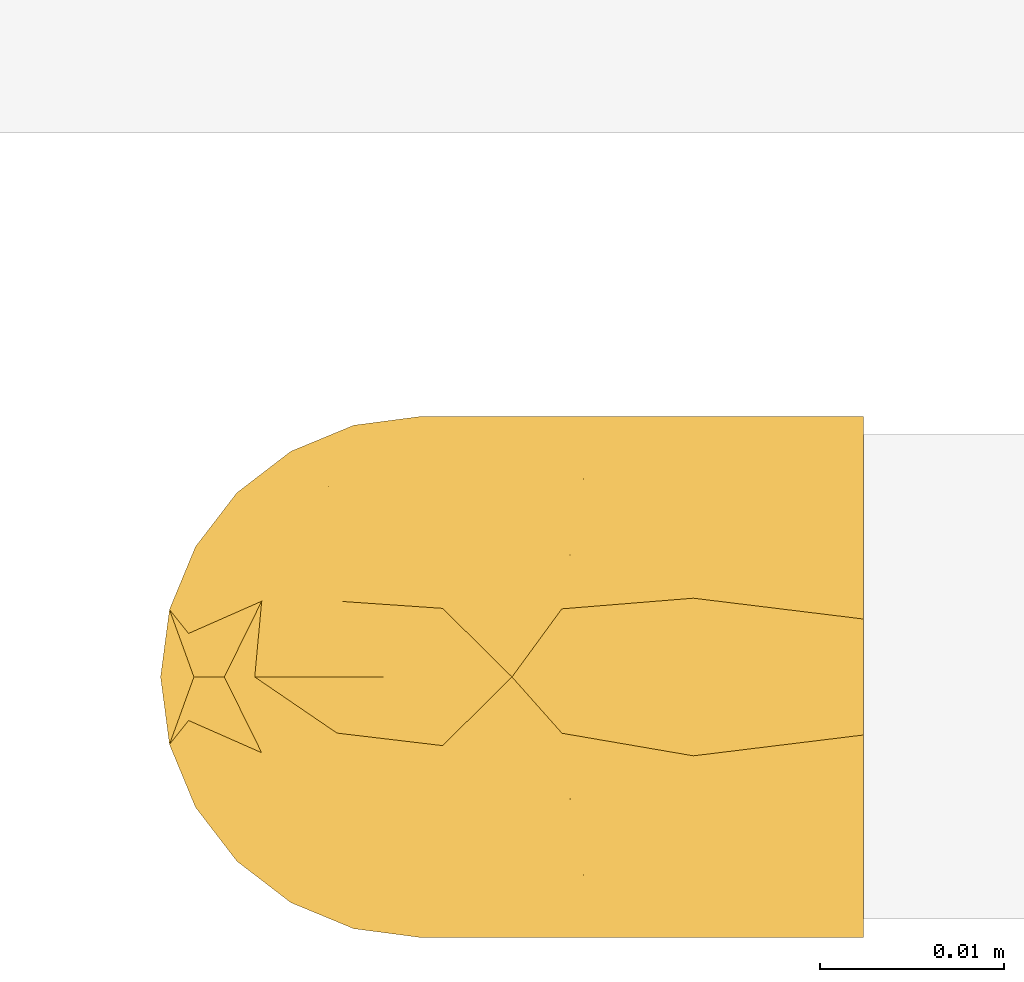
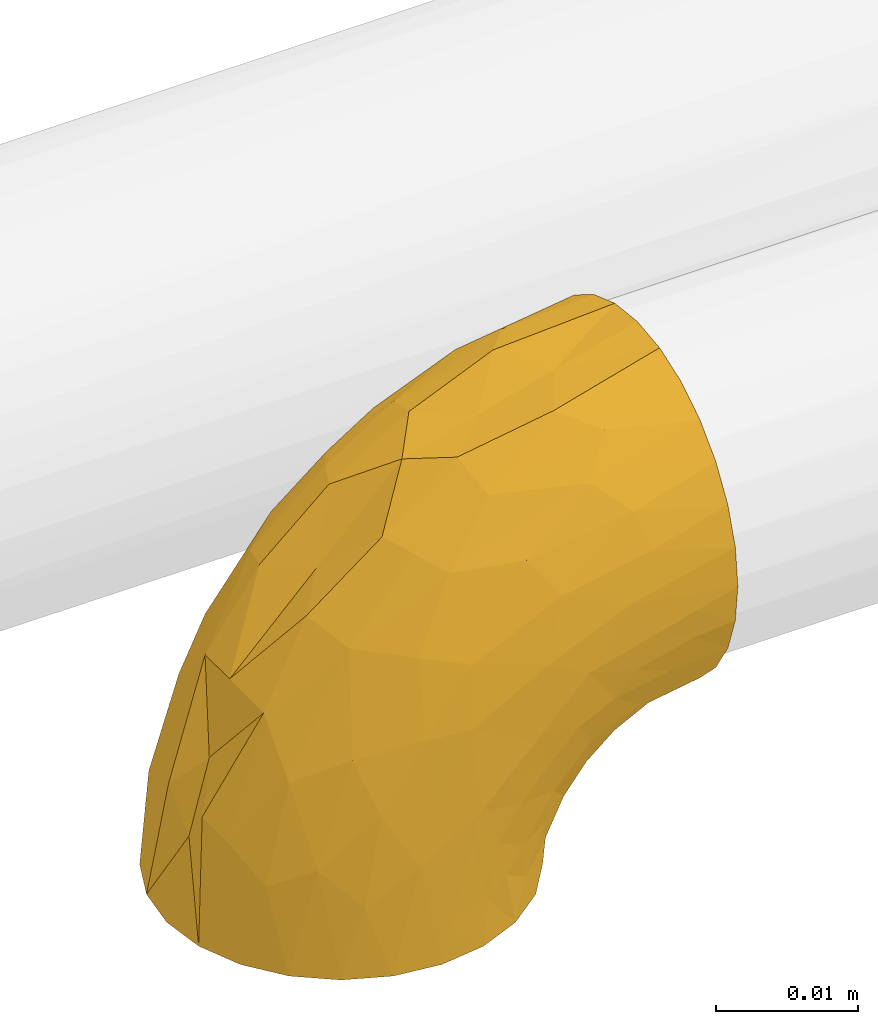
# One storey, part 2 of 4: 1 covering.
"""IFC2X3 building model written with IfcOpenShell, lengths in metres."""

from ifc_helpers import new_model, entity, si_unit, converted_unit, derived_unit, direction, frame, origin, place, context, subcontext, project, spatial, faceted_brep, material, type_object, element, save


model = new_model("IFC2X3")

# Units and contexts
model_context = context("Model", 3, precision=1e-05, world=origin(), true_north=direction((6.123031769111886e-17, 1.0)))
body_context = subcontext(model_context, "Body", "Model", "MODEL_VIEW")
ifc_project = project(units=[si_unit("LENGTHUNIT", "METRE"), si_unit("AREAUNIT", "SQUARE_METRE"), si_unit("VOLUMEUNIT", "CUBIC_METRE"), converted_unit("PLANEANGLEUNIT", "DEGREE", entity("IfcPlaneAngleMeasure", 0.017453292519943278), si_unit("PLANEANGLEUNIT", "RADIAN"), dimensions=[0, 0, 0, 0, 0, 0, 0]), si_unit("MASSUNIT", "GRAM", prefix="KILO"), derived_unit("MASSDENSITYUNIT", [(si_unit("MASSUNIT", "GRAM", prefix="KILO"), 1), (si_unit("LENGTHUNIT", "METRE"), -3)]), derived_unit("IONCONCENTRATIONUNIT", [(si_unit("MASSUNIT", "GRAM", prefix="KILO"), 1), (si_unit("LENGTHUNIT", "METRE"), -3)]), derived_unit("MOMENTOFINERTIAUNIT", [(si_unit("LENGTHUNIT", "METRE"), 4)]), si_unit("TIMEUNIT", "SECOND"), si_unit("FREQUENCYUNIT", "HERTZ"), si_unit("THERMODYNAMICTEMPERATUREUNIT", "DEGREE_CELSIUS"), derived_unit("THERMALTRANSMITTANCEUNIT", [(si_unit("MASSUNIT", "GRAM", prefix="KILO"), 1), (si_unit("THERMODYNAMICTEMPERATUREUNIT", "KELVIN"), -1), (si_unit("TIMEUNIT", "SECOND"), -3)]), derived_unit("THERMALCONDUCTANCEUNIT", [(si_unit("MASSUNIT", "GRAM", prefix="KILO"), 1), (si_unit("THERMODYNAMICTEMPERATUREUNIT", "KELVIN"), -1), (si_unit("TIMEUNIT", "SECOND"), -3), (si_unit("LENGTHUNIT", "METRE"), 1)]), derived_unit("VOLUMETRICFLOWRATEUNIT", [(si_unit("LENGTHUNIT", "METRE", prefix="DECI"), 3), (si_unit("TIMEUNIT", "SECOND"), -1)]), derived_unit("MASSFLOWRATEUNIT", [(si_unit("MASSUNIT", "GRAM", prefix="KILO"), 1), (si_unit("TIMEUNIT", "SECOND"), -1)]), derived_unit("ROTATIONALFREQUENCYUNIT", [(si_unit("TIMEUNIT", "SECOND"), -1)]), si_unit("ELECTRICCURRENTUNIT", "AMPERE"), si_unit("ELECTRICVOLTAGEUNIT", "VOLT"), si_unit("POWERUNIT", "WATT"), si_unit("FORCEUNIT", "NEWTON", prefix="KILO"), si_unit("ILLUMINANCEUNIT", "LUX"), si_unit("LUMINOUSFLUXUNIT", "LUMEN"), si_unit("LUMINOUSINTENSITYUNIT", "CANDELA"), si_unit("ENERGYUNIT", "JOULE"), derived_unit("USERDEFINED", [(si_unit("MASSUNIT", "GRAM", prefix="KILO"), -1), (si_unit("LENGTHUNIT", "METRE"), -2), (si_unit("TIMEUNIT", "SECOND"), 3), (si_unit("LUMINOUSFLUXUNIT", "LUMEN"), 1)]), derived_unit("USERDEFINED", [(si_unit("MASSUNIT", "GRAM", prefix="KILO"), 1), (si_unit("TIMEUNIT", "SECOND"), -3), (si_unit("LENGTHUNIT", "METRE"), 3), (si_unit("ELECTRICCURRENTUNIT", "AMPERE"), -2)]), derived_unit("SOUNDPOWERUNIT", [(si_unit("MASSUNIT", "GRAM", prefix="KILO"), 1), (si_unit("TIMEUNIT", "SECOND"), -3), (si_unit("LENGTHUNIT", "METRE"), 2)]), derived_unit("SOUNDPRESSUREUNIT", [(si_unit("MASSUNIT", "GRAM", prefix="KILO"), 1), (si_unit("LENGTHUNIT", "METRE"), -1), (si_unit("TIMEUNIT", "SECOND"), -2)]), derived_unit("LINEARVELOCITYUNIT", [(si_unit("LENGTHUNIT", "METRE"), 1), (si_unit("TIMEUNIT", "SECOND"), -1)]), si_unit("PRESSUREUNIT", "PASCAL"), derived_unit("USERDEFINED", [(si_unit("MASSUNIT", "GRAM", prefix="KILO"), 1), (si_unit("LENGTHUNIT", "METRE"), -2), (si_unit("TIMEUNIT", "SECOND"), -2)]), derived_unit("LINEARFORCEUNIT", [(si_unit("MASSUNIT", "GRAM", prefix="KILO"), 1), (si_unit("TIMEUNIT", "SECOND"), -2)]), derived_unit("PLANARFORCEUNIT", [(si_unit("MASSUNIT", "GRAM", prefix="KILO"), 1), (si_unit("LENGTHUNIT", "METRE"), -1), (si_unit("TIMEUNIT", "SECOND"), -2)]), derived_unit("SPECIFICHEATCAPACITYUNIT", [(si_unit("THERMODYNAMICTEMPERATUREUNIT", "KELVIN"), -1), (si_unit("LENGTHUNIT", "METRE"), 2), (si_unit("TIMEUNIT", "SECOND"), -2)]), derived_unit("HEATFLUXDENSITYUNIT", [(si_unit("MASSUNIT", "GRAM", prefix="KILO"), 1), (si_unit("TIMEUNIT", "SECOND"), -3)]), derived_unit("HEATINGVALUEUNIT", [(si_unit("LENGTHUNIT", "METRE"), 2), (si_unit("TIMEUNIT", "SECOND"), -2)]), derived_unit("VAPORPERMEABILITYUNIT", [(si_unit("LENGTHUNIT", "METRE"), -1), (si_unit("TIMEUNIT", "SECOND"), 1)]), derived_unit("DYNAMICVISCOSITYUNIT", [(si_unit("MASSUNIT", "GRAM", prefix="KILO"), 1), (si_unit("TIMEUNIT", "SECOND"), -1), (si_unit("LENGTHUNIT", "METRE"), -1)]), derived_unit("THERMALEXPANSIONCOEFFICIENTUNIT", [(si_unit("THERMODYNAMICTEMPERATUREUNIT", "KELVIN"), -1)]), derived_unit("MODULUSOFELASTICITYUNIT", [(si_unit("MASSUNIT", "GRAM", prefix="KILO"), 1), (si_unit("LENGTHUNIT", "METRE"), -1), (si_unit("TIMEUNIT", "SECOND"), -2)]), derived_unit("ISOTHERMALMOISTURECAPACITYUNIT", [(si_unit("MASSUNIT", "GRAM", prefix="KILO"), -1), (si_unit("LENGTHUNIT", "METRE"), 3)]), derived_unit("MOISTUREDIFFUSIVITYUNIT", [(si_unit("TIMEUNIT", "SECOND"), -1), (si_unit("LENGTHUNIT", "METRE"), 2)]), derived_unit("MASSPERLENGTHUNIT", [(si_unit("MASSUNIT", "GRAM", prefix="KILO"), 1), (si_unit("LENGTHUNIT", "METRE"), -1)]), derived_unit("THERMALRESISTANCEUNIT", [(si_unit("MASSUNIT", "GRAM", prefix="KILO"), -1), (si_unit("TIMEUNIT", "SECOND"), 3), (si_unit("THERMODYNAMICTEMPERATUREUNIT", "KELVIN"), 1)]), derived_unit("ACCELERATIONUNIT", [(si_unit("LENGTHUNIT", "METRE"), 1), (si_unit("TIMEUNIT", "SECOND"), -2)]), derived_unit("ANGULARVELOCITYUNIT", [(si_unit("TIMEUNIT", "SECOND"), -1), (si_unit("PLANEANGLEUNIT", "RADIAN"), 1)]), derived_unit("LINEARSTIFFNESSUNIT", [(si_unit("MASSUNIT", "GRAM", prefix="KILO"), 1), (si_unit("TIMEUNIT", "SECOND"), -2)]), derived_unit("WARPINGCONSTANTUNIT", [(si_unit("LENGTHUNIT", "METRE"), 6)]), derived_unit("LINEARMOMENTUNIT", [(si_unit("MASSUNIT", "GRAM", prefix="KILO"), 1), (si_unit("LENGTHUNIT", "METRE"), 1), (si_unit("TIMEUNIT", "SECOND"), -2)]), derived_unit("TORQUEUNIT", [(si_unit("MASSUNIT", "GRAM", prefix="KILO"), 1), (si_unit("LENGTHUNIT", "METRE"), 2), (si_unit("TIMEUNIT", "SECOND"), -2)])], contexts=[model_context])

# Site, building, storey
site_placement = place(None, origin())
site = spatial("IfcSite", under=ifc_project, at=site_placement, Name="Default", CompositionType="ELEMENT")
building_placement = place(site_placement, origin())
building = spatial("IfcBuilding", under=site, at=building_placement, CompositionType="ELEMENT")
storey_placement = place(building_placement, frame((0.0, 0.0, 2.4999999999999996)))
storey = spatial("IfcBuildingStorey", under=building, at=storey_placement, Name="Niveau 1", CompositionType="ELEMENT", Elevation=2.4999999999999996)

# Covering
ifc_material = material(Name="Matériau du rendu 255-255-255")
covering_type = type_object("IfcCoveringType", Name="Isolation des canalisations:Par défaut", PredefinedType="INSULATION")
covering_placement = place(storey_placement, frame((-14.541096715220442, 2.7237312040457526, -0.08069527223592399)))
element("IfcCovering", 1, at=covering_placement, inside=storey, type_object=covering_type, material=ifc_material, Name="Isolation des canalisations:Par défaut", ObjectType="Isolation des canalisations:Par défaut", PredefinedType="INSULATION", context=body_context, shape_type="Brep", body=[
    faceted_brep([(0.03989527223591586, 0.029638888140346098, 0.028856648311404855), (0.03989527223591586, 0.028587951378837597, 0.03185866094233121), (0.03989527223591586, 0.02689555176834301, 0.03455099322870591), (0.03989527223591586, 0.02464675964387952, 0.03679892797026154), (0.03989527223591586, 0.02195436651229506, 0.03849001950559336), (0.03989527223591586, 0.018953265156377, 0.03953966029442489), (0.03989527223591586, 0.01579527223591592, 0.0398952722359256), (0.03989527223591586, 0.012633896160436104, 0.039538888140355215), (0.03989527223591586, 0.009631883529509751, 0.03848795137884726), (0.03989527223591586, 0.00693955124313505, 0.03679555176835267), (0.03989527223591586, 0.004691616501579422, 0.03454675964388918), (0.03989527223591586, 0.0030005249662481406, 0.03185436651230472), (0.03989527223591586, 0.0019508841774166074, 0.02885326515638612), (0.03989527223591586, 0.0015952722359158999, 0.025695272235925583), (0.03989527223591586, 0.0019516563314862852, 0.022533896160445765), (0.03989527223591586, 0.0030025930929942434, 0.01953188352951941), (0.03989527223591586, 0.004694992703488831, 0.01683955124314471), (0.03989527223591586, 0.006943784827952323, 0.014591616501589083), (0.03989527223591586, 0.009636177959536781, 0.012900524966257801), (0.03989527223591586, 0.01263727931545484, 0.011850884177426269), (0.03989527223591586, 0.01579527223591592, 0.011495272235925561), (0.03989527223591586, 0.01895664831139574, 0.011851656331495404), (0.03989527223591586, 0.02195866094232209, 0.012902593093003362), (0.03989527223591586, 0.02465099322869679, 0.01459499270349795), (0.03989527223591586, 0.02689892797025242, 0.016843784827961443), (0.03989527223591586, 0.0285900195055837, 0.01953617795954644), (0.03989527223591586, 0.029639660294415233, 0.022537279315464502), (0.03989527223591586, 0.02999527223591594, 0.025695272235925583), (0.029511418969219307, 0.012120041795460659, 0.0015952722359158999), (0.028092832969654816, 0.008695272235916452, 0.0015952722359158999), (0.025836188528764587, 0.005754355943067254, 0.0015952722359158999), (0.02289527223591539, 0.0034977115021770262, 0.0015952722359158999), (0.019470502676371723, 0.00207912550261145, 0.0015952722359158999), (0.01579527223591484, 0.0015952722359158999, 0.0015952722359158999), (0.012120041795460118, 0.00207912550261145, 0.0015952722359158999), (0.008695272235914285, 0.0034977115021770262, 0.0015952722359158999), (0.005754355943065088, 0.005754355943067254, 0.0015952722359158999), (0.0034977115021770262, 0.00869527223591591, 0.0015952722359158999), (0.002079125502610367, 0.012120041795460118, 0.0015952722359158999), (0.0015952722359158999, 0.01579527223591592, 0.0015952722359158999), (0.002079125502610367, 0.019470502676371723, 0.0015952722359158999), (0.0034977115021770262, 0.02289527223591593, 0.0015952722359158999), (0.005754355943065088, 0.02583618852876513, 0.0015952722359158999), (0.008695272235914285, 0.028092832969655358, 0.0015952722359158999), (0.012120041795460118, 0.029511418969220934, 0.0015952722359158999), (0.01579527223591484, 0.02999527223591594, 0.0015952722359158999), (0.019470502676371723, 0.029511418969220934, 0.0015952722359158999), (0.02289527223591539, 0.028092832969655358, 0.0015952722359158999), (0.025836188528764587, 0.02583618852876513, 0.0015952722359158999), (0.028092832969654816, 0.02289527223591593, 0.0015952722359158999), (0.029511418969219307, 0.019470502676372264, 0.0015952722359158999), (0.02999527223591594, 0.015795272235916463, 0.0015952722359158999), (0.0314669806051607, 0.029733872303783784, 0.027048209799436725), (0.0031203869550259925, 0.01816666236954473, 0.011558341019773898), (0.003411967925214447, 0.01579527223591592, 0.008375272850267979), (0.005069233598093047, 0.01579527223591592, 0.014560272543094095), (0.01188686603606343, 0.028252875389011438, 0.014682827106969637), (0.007682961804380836, 0.02654090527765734, 0.010357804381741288), (0.010723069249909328, 0.026180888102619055, 0.018634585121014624), (0.024625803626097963, 0.029662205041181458, 0.024053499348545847), (0.027845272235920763, 0.02999527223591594, 0.022466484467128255), (0.030629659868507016, 0.02008831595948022, 0.03807237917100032), (0.02392756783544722, 0.022434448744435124, 0.0345865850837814), (0.023459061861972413, 0.01950717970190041, 0.03564178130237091), (0.018688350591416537, 0.029344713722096, 0.020408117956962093), (0.02343466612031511, 0.02999527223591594, 0.018055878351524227), (0.007069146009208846, 0.023549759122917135, 0.016364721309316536), (0.0036578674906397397, 0.02080360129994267, 0.0107970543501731), (0.0071057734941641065, 0.019923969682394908, 0.020172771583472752), (0.010332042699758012, 0.028644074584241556, 0.007491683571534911), (0.014222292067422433, 0.029677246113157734, 0.010237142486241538), (0.012450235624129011, 0.022802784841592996, 0.025582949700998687), (0.019024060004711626, 0.02999527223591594, 0.0136452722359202), (0.018308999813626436, 0.02999527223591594, 0.010976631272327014), (0.017593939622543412, 0.02999527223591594, 0.008307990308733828), (0.017409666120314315, 0.02999527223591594, 0.0076202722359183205), (0.01669460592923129, 0.02999527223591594, 0.004951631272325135), (0.02208875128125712, 0.028908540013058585, 0.025175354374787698), (0.0157517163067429, 0.028018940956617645, 0.021556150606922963), (0.020432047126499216, 0.027726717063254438, 0.026742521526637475), (0.032926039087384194, 0.02742768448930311, 0.033077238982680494), (0.030551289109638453, 0.02526771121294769, 0.03499160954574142), (0.03305521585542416, 0.02297391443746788, 0.03729777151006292), (0.026930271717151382, 0.01579527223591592, 0.03642131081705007), (0.03354339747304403, 0.028931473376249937, 0.030395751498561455), (0.026409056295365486, 0.02856587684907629, 0.02873854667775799), (0.004907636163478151, 0.02404225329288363, 0.008485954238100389), (0.036538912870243, 0.02999527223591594, 0.024795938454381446), (0.03387027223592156, 0.02999527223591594, 0.024080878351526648), (0.033182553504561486, 0.02999527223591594, 0.023896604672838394), (0.03051391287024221, 0.029995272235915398, 0.023181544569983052), (0.024636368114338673, 0.0265925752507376, 0.031219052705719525), (0.019588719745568, 0.024430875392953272, 0.030558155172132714), (0.03311527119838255, 0.01579527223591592, 0.038078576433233), (0.016105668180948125, 0.026199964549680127, 0.025554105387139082), (0.013735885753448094, 0.01579527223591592, 0.02775465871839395), (0.02074527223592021, 0.01579527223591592, 0.03476404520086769), (0.01696345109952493, 0.019534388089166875, 0.03164333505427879), (0.006726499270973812, 0.01579527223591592, 0.02074527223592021), (0.011513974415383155, 0.01990856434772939, 0.02639706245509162), (0.01814369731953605, 0.02209913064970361, 0.03130855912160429), (0.021229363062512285, 0.02999527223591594, 0.01585057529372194), (0.025639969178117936, 0.02999527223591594, 0.02026118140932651), (0.030232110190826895, 0.029377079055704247, 0.019055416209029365), (0.03504783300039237, 0.0288294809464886, 0.019412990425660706), (0.033347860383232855, 0.02753992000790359, 0.016324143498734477), (0.020600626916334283, 0.029670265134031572, 0.010083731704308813), (0.0199023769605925, 0.02948832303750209, 0.005334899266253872), (0.026696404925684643, 0.025730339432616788, 0.006124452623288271), (0.028391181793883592, 0.02535629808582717, 0.008851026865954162), (0.029556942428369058, 0.022650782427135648, 0.006997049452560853), (0.025886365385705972, 0.028333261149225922, 0.01197247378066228), (0.02249376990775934, 0.029588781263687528, 0.012855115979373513), (0.02503988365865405, 0.02950996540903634, 0.015604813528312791), (0.028891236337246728, 0.021863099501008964, 0.003990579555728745), (0.02158166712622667, 0.02905725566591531, 0.006747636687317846), (0.024031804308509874, 0.02758119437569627, 0.004778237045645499), (0.031378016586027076, 0.019266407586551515, 0.007441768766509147), (0.03289491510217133, 0.01579527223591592, 0.008595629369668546), (0.03144509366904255, 0.01579527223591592, 0.005095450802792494), (0.03317880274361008, 0.01983888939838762, 0.009650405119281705), (0.036552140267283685, 0.02964120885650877, 0.022275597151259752), (0.03568980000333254, 0.018973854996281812, 0.010954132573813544), (0.03423455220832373, 0.021894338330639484, 0.011348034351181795), (0.03722732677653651, 0.021143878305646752, 0.0122109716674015), (0.035780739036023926, 0.02452710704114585, 0.013823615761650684), (0.032410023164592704, 0.024465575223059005, 0.012045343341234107), (0.031437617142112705, 0.02276166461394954, 0.009717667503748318), (0.036925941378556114, 0.026659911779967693, 0.016254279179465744), (0.03340468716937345, 0.029708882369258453, 0.021842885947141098), (0.03010341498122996, 0.01879844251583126, 0.004526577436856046), (0.036395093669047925, 0.01579527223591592, 0.010045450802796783), (0.02885195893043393, 0.0284623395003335, 0.015405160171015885), (0.031813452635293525, 0.026609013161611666, 0.014108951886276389), (0.025603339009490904, 0.02746848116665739, 0.008820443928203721), (0.02326573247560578, 0.028613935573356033, 0.008460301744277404), (0.027264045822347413, 0.029539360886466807, 0.017780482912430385), (0.029734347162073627, 0.026220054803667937, 0.011880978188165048), (0.03143814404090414, 0.008832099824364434, 0.0097155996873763), (0.0313779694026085, 0.012323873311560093, 0.007441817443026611), (0.033180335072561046, 0.011756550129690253, 0.009649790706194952), (0.03653891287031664, 0.0015952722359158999, 0.024795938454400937), (0.02987116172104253, 0.01162612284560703, 0.004806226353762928), (0.018308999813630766, 0.0015952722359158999, 0.01097663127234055), (0.020600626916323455, 0.001920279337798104, 0.010083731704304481), (0.019024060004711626, 0.0015952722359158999, 0.0136452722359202), (0.028677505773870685, 0.009216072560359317, 0.0041996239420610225), (0.0199023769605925, 0.0021022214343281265, 0.005334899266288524), (0.01669460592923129, 0.0015952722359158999, 0.004951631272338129), (0.029738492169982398, 0.005375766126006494, 0.011877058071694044), (0.028856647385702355, 0.0031321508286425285, 0.015398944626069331), (0.025891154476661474, 0.0032613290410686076, 0.011966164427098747), (0.023265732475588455, 0.002976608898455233, 0.008460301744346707), (0.02158166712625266, 0.0025332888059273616, 0.006747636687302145), (0.024031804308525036, 0.004009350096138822, 0.004778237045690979), (0.026696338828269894, 0.005860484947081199, 0.006123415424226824), (0.028391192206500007, 0.006235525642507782, 0.00884885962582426), (0.029555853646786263, 0.00894058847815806, 0.006993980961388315), (0.03722818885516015, 0.010451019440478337, 0.01220936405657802), (0.03569117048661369, 0.012619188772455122, 0.010954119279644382), (0.035048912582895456, 0.002763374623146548, 0.0194077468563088), (0.03655023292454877, 0.0019500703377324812, 0.0222720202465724), (0.03578262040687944, 0.007068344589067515, 0.013820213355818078), (0.033870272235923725, 0.0015952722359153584, 0.024080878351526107), (0.03318255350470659, 0.0015952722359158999, 0.023896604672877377), (0.030228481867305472, 0.0022143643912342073, 0.01905004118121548), (0.03335039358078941, 0.0040545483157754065, 0.016318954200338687), (0.036927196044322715, 0.004934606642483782, 0.016249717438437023), (0.03423654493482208, 0.009701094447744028, 0.011346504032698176), (0.03241284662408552, 0.007130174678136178, 0.01204243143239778), (0.025602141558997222, 0.004122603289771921, 0.008816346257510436), (0.02249765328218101, 0.002001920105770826, 0.012859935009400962), (0.03051391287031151, 0.0015952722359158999, 0.023181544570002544), (0.027845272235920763, 0.0015952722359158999, 0.022466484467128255), (0.03186606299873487, 0.0019021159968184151, 0.021177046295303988), (0.031816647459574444, 0.004986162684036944, 0.014104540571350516), (0.027279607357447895, 0.002056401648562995, 0.017767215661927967), (0.02343466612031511, 0.0015952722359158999, 0.018055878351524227), (0.02505454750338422, 0.0020828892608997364, 0.015607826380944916), (0.025639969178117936, 0.0015952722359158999, 0.02026118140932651), (0.021229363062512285, 0.0015952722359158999, 0.01585057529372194), (0.017593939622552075, 0.0015952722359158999, 0.008307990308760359), (0.017409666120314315, 0.0015952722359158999, 0.0076202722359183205), (0.00768274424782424, 0.005049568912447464, 0.010356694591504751), (0.011885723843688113, 0.0033374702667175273, 0.014679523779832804), (0.01072316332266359, 0.005409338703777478, 0.018634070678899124), (0.032926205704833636, 0.004160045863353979, 0.033073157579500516), (0.014222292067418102, 0.0019132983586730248, 0.010237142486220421), (0.012458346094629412, 0.008788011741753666, 0.025592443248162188), (0.01696382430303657, 0.012054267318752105, 0.03164297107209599), (0.011208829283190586, 0.012737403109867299, 0.026466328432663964), (0.0195909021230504, 0.007155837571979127, 0.030556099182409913), (0.02463839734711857, 0.004994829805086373, 0.031215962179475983), (0.030551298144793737, 0.00631902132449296, 0.03498806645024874), (0.010331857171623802, 0.002946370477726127, 0.007489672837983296), (0.0036581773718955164, 0.010787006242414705, 0.0107983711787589), (0.007070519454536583, 0.00804101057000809, 0.016368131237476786), (0.007105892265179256, 0.011666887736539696, 0.0201731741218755), (0.026410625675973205, 0.003022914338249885, 0.02873529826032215), (0.019389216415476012, 0.00344376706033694, 0.024984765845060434), (0.0246266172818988, 0.0019283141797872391, 0.024053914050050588), (0.03062937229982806, 0.011498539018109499, 0.03807109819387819), (0.03146839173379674, 0.0018563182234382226, 0.027046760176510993), (0.004907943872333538, 0.007548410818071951, 0.008487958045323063), (0.03305363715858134, 0.008612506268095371, 0.03729500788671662), (0.023928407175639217, 0.009151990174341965, 0.03458457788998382), (0.01868931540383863, 0.0022460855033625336, 0.020410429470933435), (0.015393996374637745, 0.0031939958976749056, 0.020003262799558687), (0.003120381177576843, 0.013423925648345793, 0.011558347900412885), (0.016108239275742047, 0.005387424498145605, 0.025551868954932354), (0.03354382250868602, 0.002657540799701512, 0.030392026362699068), (0.02346964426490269, 0.012727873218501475, 0.03582275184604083), (0.01814165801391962, 0.009488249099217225, 0.03130512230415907)], [[[0, 1, 2, 3, 4, 5, 6, 7, 8, 9, 10, 11, 12, 13, 14, 15, 16, 17, 18, 19, 20, 21, 22, 23, 24, 25, 26, 27]], [[28, 29, 30, 31, 32, 33, 34, 35, 36, 37, 38, 39, 40, 41, 42, 43, 44, 45, 46, 47, 48, 49, 50, 51]], [[27, 52, 0]], [[53, 54, 55]], [[56, 57, 58]], [[59, 52, 60]], [[61, 62, 63]], [[64, 59, 65]], [[66, 67, 68]], [[57, 56, 69]], [[70, 45, 44]], [[43, 42, 57]], [[66, 68, 71]], [[70, 72, 73, 74, 75, 76, 45]], [[44, 43, 69]], [[77, 78, 79]], [[80, 81, 2]], [[41, 40, 67]], [[82, 62, 61]], [[2, 81, 3]], [[63, 83, 61]], [[61, 5, 4]], [[84, 52, 85]], [[40, 39, 54]], [[58, 78, 56]], [[66, 86, 67]], [[86, 42, 41]], [[52, 27, 87, 88, 89, 90, 60]], [[91, 92, 81]], [[70, 64, 72]], [[80, 2, 1]], [[93, 5, 61]], [[1, 0, 84]], [[93, 6, 5]], [[81, 80, 91]], [[4, 82, 61]], [[54, 53, 40]], [[82, 4, 3]], [[68, 67, 53]], [[86, 57, 42]], [[58, 94, 78]], [[69, 70, 44]], [[64, 70, 56]], [[78, 64, 56]], [[85, 52, 59]], [[3, 81, 82]], [[62, 82, 81]], [[84, 80, 1]], [[91, 80, 85]], [[79, 91, 85]], [[91, 94, 92]], [[95, 96, 97]], [[94, 58, 71]], [[98, 95, 99]], [[99, 95, 97]], [[92, 62, 81]], [[92, 100, 62]], [[68, 99, 71]], [[52, 84, 0]], [[80, 84, 85]], [[67, 86, 41]], [[57, 86, 66]], [[57, 66, 58]], [[71, 58, 66]], [[64, 65, 101, 72]], [[77, 79, 85]], [[59, 60, 102, 65]], [[94, 71, 92]], [[71, 99, 100]], [[68, 53, 55]], [[98, 68, 55]], [[40, 53, 67]], [[71, 100, 92]], [[63, 100, 97]], [[57, 69, 43]], [[70, 69, 56]], [[100, 63, 62]], [[83, 93, 61]], [[79, 78, 94]], [[91, 79, 94]], [[85, 59, 77]], [[59, 64, 77]], [[78, 77, 64]], [[99, 68, 98]], [[100, 99, 97]], [[97, 96, 63]], [[83, 63, 96]], [[103, 104, 105]], [[72, 106, 73]], [[47, 46, 107]], [[107, 46, 76]], [[108, 109, 110]], [[111, 112, 113]], [[108, 110, 114]], [[47, 115, 116]], [[117, 118, 119]], [[108, 49, 48]], [[118, 117, 120]], [[25, 121, 26]], [[49, 114, 50]], [[122, 123, 124]], [[124, 125, 22]], [[126, 123, 127]], [[128, 104, 24]], [[129, 103, 60]], [[24, 104, 25]], [[27, 26, 87]], [[123, 120, 127]], [[130, 117, 119]], [[107, 76, 75, 74, 73]], [[131, 118, 122, 20]], [[105, 132, 103]], [[21, 124, 22]], [[23, 22, 125]], [[121, 87, 26]], [[126, 133, 125]], [[130, 110, 117]], [[123, 122, 120]], [[128, 24, 23]], [[50, 130, 51]], [[128, 125, 105]], [[129, 121, 104]], [[116, 108, 48]], [[134, 135, 111]], [[135, 112, 111]], [[127, 120, 117]], [[21, 20, 122]], [[125, 124, 123]], [[21, 122, 124]], [[105, 133, 132]], [[136, 103, 132]], [[111, 132, 137]], [[113, 136, 132]], [[111, 137, 109]], [[112, 106, 72]], [[118, 120, 122]], [[127, 117, 110]], [[109, 127, 110]], [[126, 127, 137]], [[133, 126, 137]], [[125, 123, 126]], [[132, 133, 137]], [[125, 133, 105]], [[125, 128, 23]], [[104, 128, 105]], [[113, 101, 65]], [[101, 113, 112]], [[102, 136, 65]], [[132, 111, 113]], [[103, 102, 60]], [[104, 121, 25]], [[121, 89, 88, 87]], [[129, 60, 90, 89]], [[121, 129, 89]], [[115, 107, 106]], [[106, 112, 135]], [[73, 106, 107]], [[106, 135, 115]], [[116, 115, 135]], [[47, 107, 115]], [[116, 135, 134]], [[47, 116, 48]], [[51, 130, 119]], [[130, 50, 114]], [[112, 72, 101]], [[108, 114, 49]], [[130, 114, 110]], [[65, 136, 113]], [[102, 103, 136]], [[46, 45, 76]], [[109, 108, 134]], [[127, 109, 137]], [[109, 134, 111]], [[116, 134, 108]], [[103, 129, 104]], [[138, 139, 140]], [[14, 13, 141]], [[119, 142, 51]], [[139, 142, 119]], [[143, 144, 145]], [[142, 146, 28]], [[147, 148, 32]], [[149, 150, 151]], [[152, 153, 154]], [[118, 139, 119]], [[155, 29, 146]], [[138, 156, 157]], [[158, 159, 19]], [[157, 139, 138]], [[18, 158, 19]], [[160, 15, 161]], [[17, 162, 18]], [[161, 141, 163, 164]], [[160, 165, 166]], [[147, 32, 31]], [[17, 16, 167]], [[168, 158, 162]], [[160, 166, 167]], [[149, 138, 169]], [[170, 156, 151]], [[151, 171, 152]], [[172, 173, 174, 164]], [[14, 161, 15]], [[155, 30, 29]], [[160, 16, 15]], [[19, 159, 20]], [[118, 131, 20, 159]], [[169, 175, 149]], [[167, 162, 17]], [[174, 165, 160]], [[156, 155, 157]], [[155, 170, 154]], [[150, 166, 165]], [[118, 159, 140]], [[142, 139, 157]], [[162, 158, 18]], [[159, 158, 168]], [[159, 168, 140]], [[176, 177, 178]], [[150, 149, 175]], [[176, 178, 150]], [[171, 145, 144]], [[165, 179, 176]], [[170, 151, 152]], [[140, 168, 138]], [[118, 140, 139]], [[169, 138, 168]], [[156, 138, 149]], [[168, 162, 169]], [[175, 162, 166]], [[162, 175, 169]], [[150, 175, 166]], [[160, 167, 16]], [[162, 167, 166]], [[178, 171, 151]], [[178, 180, 171]], [[151, 150, 178]], [[165, 173, 179]], [[176, 150, 165]], [[141, 161, 14]], [[174, 173, 165]], [[174, 161, 164]], [[152, 144, 153]], [[147, 143, 181, 182, 148]], [[147, 153, 144]], [[147, 144, 143]], [[171, 144, 152]], [[147, 31, 153]], [[154, 31, 30]], [[31, 154, 153]], [[155, 154, 30]], [[146, 142, 157]], [[142, 28, 51]], [[155, 146, 157]], [[28, 146, 29]], [[180, 178, 177]], [[180, 145, 171]], [[177, 176, 179]], [[148, 33, 32]], [[151, 156, 149]], [[154, 170, 152]], [[156, 170, 155]], [[161, 174, 160]], [[183, 184, 185]], [[10, 186, 11]], [[187, 33, 148, 182, 181, 143, 145]], [[188, 189, 190]], [[191, 192, 193]], [[34, 194, 35]], [[195, 38, 37]], [[195, 196, 197]], [[194, 183, 35]], [[54, 39, 38]], [[183, 36, 35]], [[98, 55, 197]], [[198, 199, 200]], [[8, 7, 201]], [[200, 173, 202]], [[203, 195, 37]], [[13, 12, 202]], [[36, 203, 37]], [[9, 193, 10]], [[204, 205, 193]], [[187, 206, 207]], [[193, 186, 10]], [[7, 6, 93]], [[55, 208, 197]], [[186, 192, 198]], [[201, 204, 8]], [[192, 199, 198]], [[192, 191, 209]], [[202, 173, 172, 164, 163, 141, 13]], [[7, 93, 201]], [[210, 202, 12]], [[204, 9, 8]], [[33, 187, 34]], [[11, 210, 12]], [[83, 96, 211]], [[207, 206, 199]], [[38, 195, 208]], [[207, 185, 184]], [[203, 183, 196]], [[206, 187, 145]], [[194, 187, 184]], [[206, 177, 200]], [[206, 200, 199]], [[205, 204, 201]], [[193, 9, 204]], [[192, 186, 193]], [[210, 186, 198]], [[191, 193, 205]], [[199, 192, 209]], [[196, 185, 188]], [[190, 98, 197]], [[197, 196, 188]], [[95, 189, 96]], [[211, 205, 201]], [[190, 189, 95]], [[212, 188, 191]], [[186, 210, 11]], [[202, 210, 198]], [[183, 203, 36]], [[195, 203, 196]], [[188, 185, 209]], [[196, 183, 185]], [[198, 200, 202]], [[212, 191, 205]], [[206, 145, 180, 177]], [[200, 177, 179, 173]], [[188, 209, 191]], [[38, 208, 54]], [[54, 208, 55]], [[197, 208, 195]], [[205, 189, 212]], [[188, 212, 189]], [[187, 194, 34]], [[183, 194, 184]], [[189, 211, 96]], [[201, 93, 83]], [[209, 185, 207]], [[207, 199, 209]], [[187, 207, 184]], [[98, 190, 95]], [[188, 190, 197]], [[205, 211, 189]], [[83, 211, 201]]]),
])

save(model, "model.ifc")
